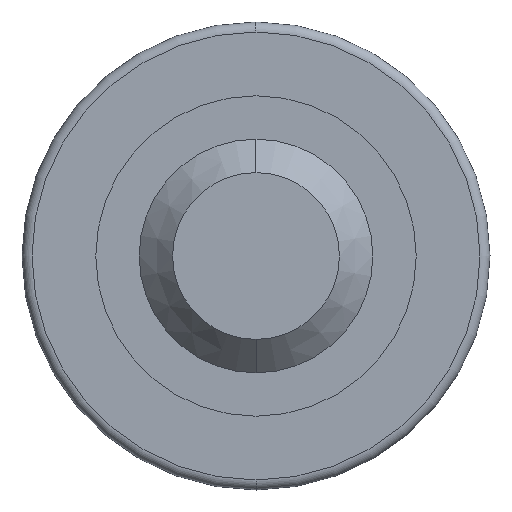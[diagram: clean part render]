
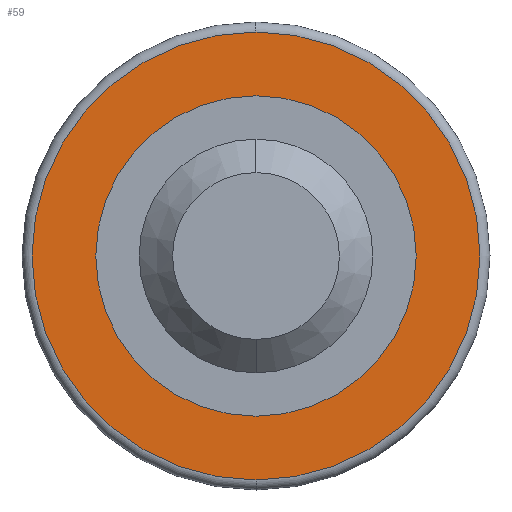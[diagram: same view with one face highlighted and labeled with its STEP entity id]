
A CAD part, left-side view. The second image highlights one B-rep face of the part: STEP entity #59.
In plain terms, the highlighted planar face has unit normal (-1, 0, 0).
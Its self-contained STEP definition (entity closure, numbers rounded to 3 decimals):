
#23 = EDGE_CURVE ( 'NONE', #81, #544, #350, .T. ) ;
#35 = EDGE_LOOP ( 'NONE', ( #712, #353 ) ) ;
#46 = ORIENTED_EDGE ( 'NONE', *, *, #707, .F. ) ;
#59 = ADVANCED_FACE ( 'NONE', ( #572, #573 ), #574, .T. ) ;
#61 = VERTEX_POINT ( 'NONE', #590 ) ;
#81 = VERTEX_POINT ( 'NONE', #376 ) ;
#83 = VERTEX_POINT ( 'NONE', #382 ) ;
#95 = ORIENTED_EDGE ( 'NONE', *, *, #107, .F. ) ;
#107 = EDGE_CURVE ( 'NONE', #83, #61, #536, .T. ) ;
#108 = EDGE_CURVE ( 'NONE', #544, #81, #148, .T. ) ;
#146 = EDGE_LOOP ( 'NONE', ( #95, #46 ) ) ;
#148 = CIRCLE ( 'NONE', #149, 24. ) ;
#149 = AXIS2_PLACEMENT_3D ( 'NONE', #150, #151, #152 ) ;
#150 = CARTESIAN_POINT ( 'NONE',  ( 18.5, 0., 0. ) ) ;
#151 = DIRECTION ( 'NONE',  ( 1., 0., 0. ) ) ;
#152 = DIRECTION ( 'NONE',  ( 0., 0., -1. ) ) ;
#271 = CARTESIAN_POINT ( 'NONE',  ( 18.5, 0., -24. ) ) ;
#350 = CIRCLE ( 'NONE', #354, 24. ) ;
#353 = ORIENTED_EDGE ( 'NONE', *, *, #23, .T. ) ;
#354 = AXIS2_PLACEMENT_3D ( 'NONE', #355, #356, #357 ) ;
#355 = CARTESIAN_POINT ( 'NONE',  ( 18.5, 0., 0. ) ) ;
#356 = DIRECTION ( 'NONE',  ( 1., 0., 0. ) ) ;
#357 = DIRECTION ( 'NONE',  ( 0., 0., -1. ) ) ;
#376 = CARTESIAN_POINT ( 'NONE',  ( 18.5, 0., 24. ) ) ;
#382 = CARTESIAN_POINT ( 'NONE',  ( 18.5, 0., -33.55 ) ) ;
#470 = CIRCLE ( 'NONE', #471, 33.55 ) ;
#471 = AXIS2_PLACEMENT_3D ( 'NONE', #472, #473, #474 ) ;
#472 = CARTESIAN_POINT ( 'NONE',  ( 18.5, 0., 0. ) ) ;
#473 = DIRECTION ( 'NONE',  ( 1., 0., 0. ) ) ;
#474 = DIRECTION ( 'NONE',  ( 0., 0., -1. ) ) ;
#536 = CIRCLE ( 'NONE', #537, 33.55 ) ;
#537 = AXIS2_PLACEMENT_3D ( 'NONE', #538, #539, #540 ) ;
#538 = CARTESIAN_POINT ( 'NONE',  ( 18.5, 0., 0. ) ) ;
#539 = DIRECTION ( 'NONE',  ( 1., 0., 0. ) ) ;
#540 = DIRECTION ( 'NONE',  ( 0., 0., -1. ) ) ;
#544 = VERTEX_POINT ( 'NONE', #271 ) ;
#572 = FACE_BOUND ( 'NONE', #35, .T. ) ;
#573 = FACE_OUTER_BOUND ( 'NONE', #146, .T. ) ;
#574 = PLANE ( 'NONE',  #575 ) ;
#575 = AXIS2_PLACEMENT_3D ( 'NONE', #576, #577, #579 ) ;
#576 = CARTESIAN_POINT ( 'NONE',  ( 18.5, 24., 0. ) ) ;
#577 = DIRECTION ( 'NONE',  ( -1., 0., 0. ) ) ;
#579 = DIRECTION ( 'NONE',  ( 0., 0., 1. ) ) ;
#590 = CARTESIAN_POINT ( 'NONE',  ( 18.5, 0., 33.55 ) ) ;
#707 = EDGE_CURVE ( 'NONE', #61, #83, #470, .T. ) ;
#712 = ORIENTED_EDGE ( 'NONE', *, *, #108, .T. ) ;
